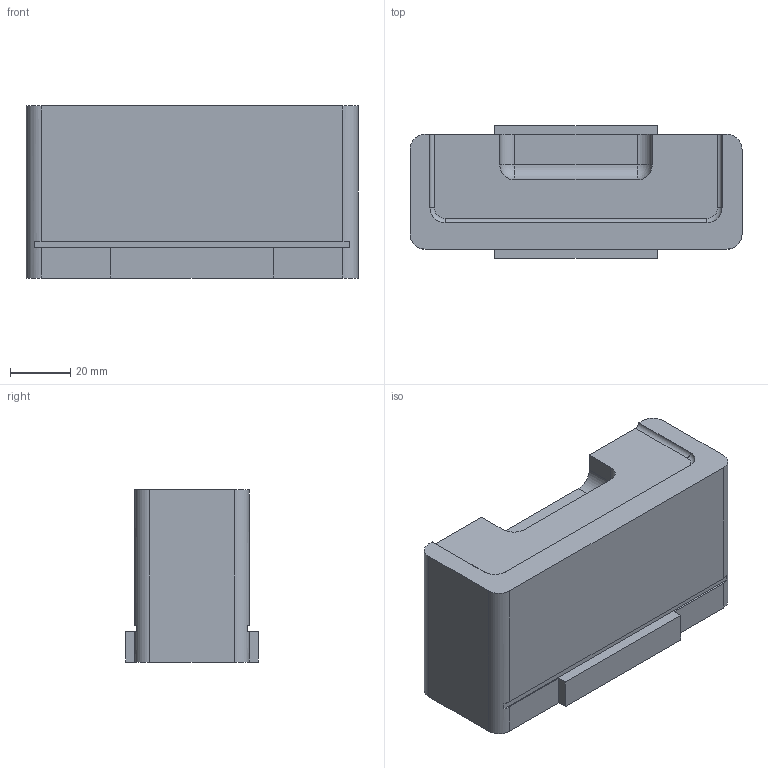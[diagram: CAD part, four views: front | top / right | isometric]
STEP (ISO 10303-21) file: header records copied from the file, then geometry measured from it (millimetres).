
FILE_DESCRIPTION(('STEP AP203'), '1');
FILE_NAME('20 Âñòàâêà', '', ('UNSPECIFIED'), ('UNSPECIFIED'), 'C3D Converter', 'C3D Toolkit', '');
FILE_SCHEMA(('CONFIG_CONTROL_DESIGN'));
Length unit declared in the file: millimetre
Products named in the file (1): ПФН 295 106/20
Bounding box: 110 x 44 x 57 mm (x, y, z)
Volume: 227949.2 mm3; surface area: 25790.5 mm2
Topology: 1 solids, 1 shells, 43 faces, 119 edges, 76 vertices
Faces by surface type: plane 27, cylinder 12, torus 2, sphere 2
Entity records: 1738 total; most frequent: DIRECTION 241, CARTESIAN_POINT 237, ORIENTED_EDGE 234, EDGE_CURVE 117, LINE 81, VECTOR 81, AXIS2_PLACEMENT_3D 80, VERTEX_POINT 76
